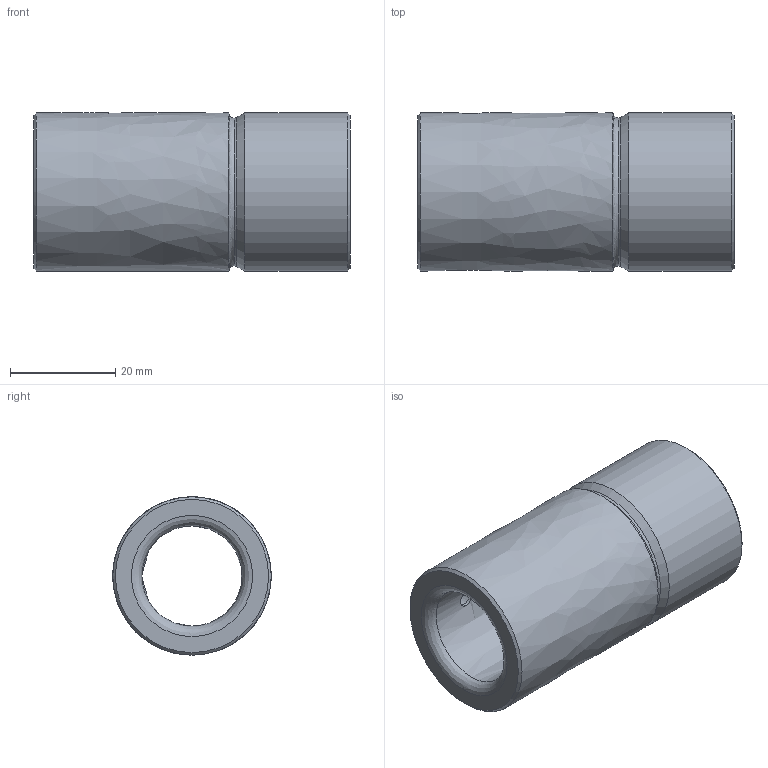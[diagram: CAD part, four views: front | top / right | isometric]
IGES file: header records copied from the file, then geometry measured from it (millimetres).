
Start section: Data from Parasolid IGES Translator 20.0.26, Copyright(c) 2006 Siemens P LM Software. All Rights Reserved.
Global section: file name: WZ 4068 19 x 60.igs; native system: By Siemens PLM Incorporated; preprocessor: XPlus GENERIC/IGES 20.0.26; author: Noname; organization: Noname; date: 20201121.205929; units: millimetre
Bounding box: 60 x 30.04 x 30.04 mm (x, y, z)
Surface area: 10267.8 mm2 (no closed solid volume)
Topology: 0 solids, 0 shells, 17 faces, 64 edges, 47 vertices
Faces by surface type: revolution 13, extrusion 4
